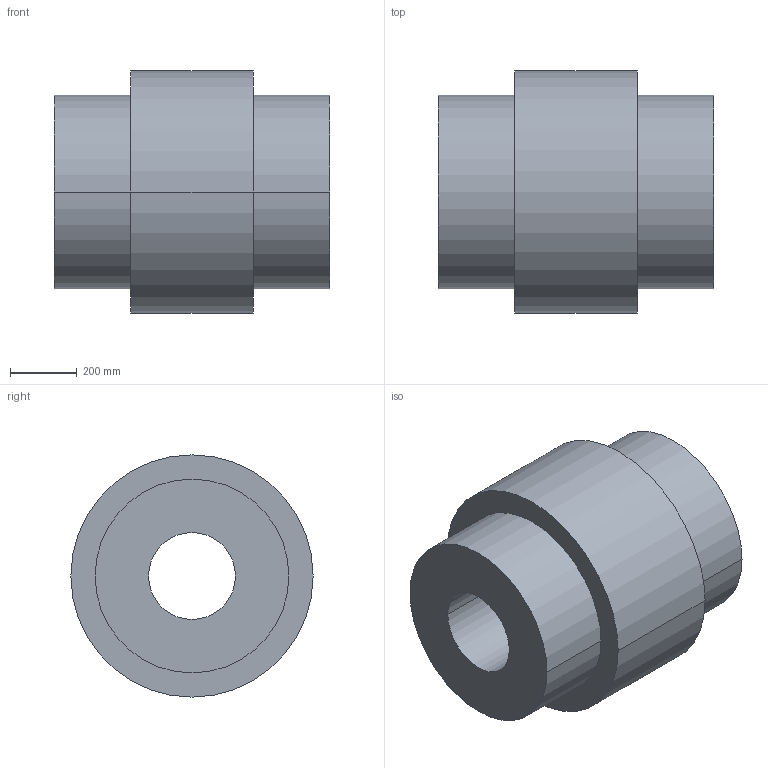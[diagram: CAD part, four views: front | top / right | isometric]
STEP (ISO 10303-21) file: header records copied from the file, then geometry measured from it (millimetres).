
FILE_DESCRIPTION((''),'2;1');
FILE_NAME('A19134700-0_ASM','2018-11-15T',('AB_Roschiwal'),('RENK AG'),'PRO/ENGINEER BY PARAMETRIC TECHNOLOGY CORPORATION, 2015440','PRO/ENGINEER BY PARAMETRIC TECHNOLOGY CORPORATION, 2015440','');
FILE_SCHEMA(('CONFIG_CONTROL_DESIGN'));
Length unit declared in the file: millimetre
Products named in the file (3): HBK355_GEHAEUSE; HBK355_NABE; A19134700-0_ASM
Assembly tree (3 placements, depth 2):
  A19134700-0_ASM
    HBK355_GEHAEUSE
    HBK355_NABE  x2
Bounding box: 825 x 725 x 725 mm (x, y, z)
Volume: 211231343.8 mm3; surface area: 5281038.8 mm2
Topology: 3 solids, 3 shells, 36 faces, 72 edges, 48 vertices
Faces by surface type: cylinder 24, plane 12
Entity records: 748 total; most frequent: DIRECTION 140, CARTESIAN_POINT 110, ORIENTED_EDGE 96, AXIS2_PLACEMENT_3D 62, EDGE_CURVE 48, VERTEX_POINT 32, EDGE_LOOP 32, CIRCLE 32
